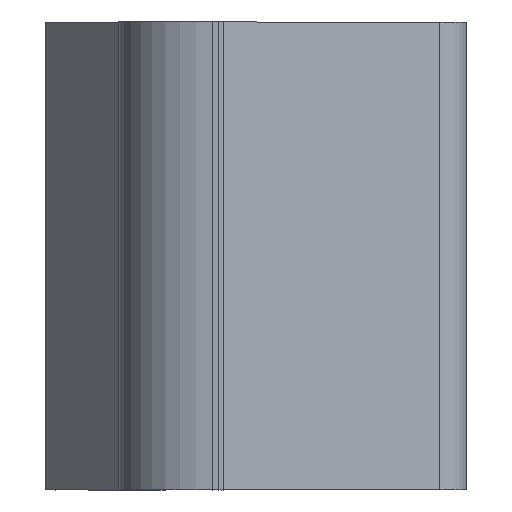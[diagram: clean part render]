
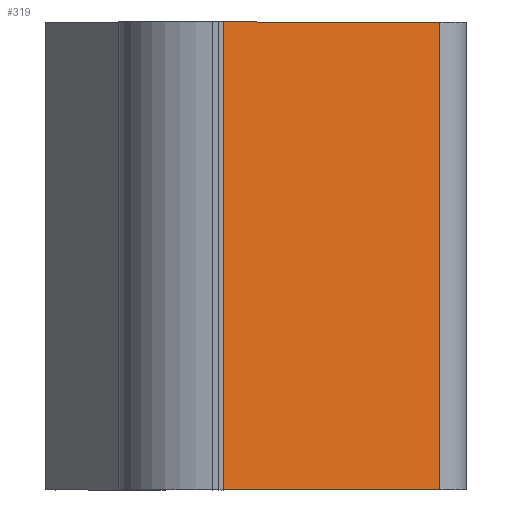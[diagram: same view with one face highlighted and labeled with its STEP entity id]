
A CAD part, left-side view. The second image highlights one B-rep face of the part: STEP entity #319.
In plain terms, the highlighted planar face has unit normal (-0.985, -0.174, 0).
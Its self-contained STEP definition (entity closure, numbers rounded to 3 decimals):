
#23 = VERTEX_POINT ( 'NONE', #437 ) ;
#49 = VERTEX_POINT ( 'NONE', #602 ) ;
#50 = ORIENTED_EDGE ( 'NONE', *, *, #69, .F. ) ;
#69 = EDGE_CURVE ( 'NONE', #49, #327, #773, .T. ) ;
#96 = ORIENTED_EDGE ( 'NONE', *, *, #941, .F. ) ;
#140 = ORIENTED_EDGE ( 'NONE', *, *, #258, .T. ) ;
#167 = VERTEX_POINT ( 'NONE', #731 ) ;
#219 = ORIENTED_EDGE ( 'NONE', *, *, #815, .F. ) ;
#258 = EDGE_CURVE ( 'NONE', #167, #23, #1047, .T. ) ;
#296 = EDGE_LOOP ( 'NONE', ( #219, #140, #96, #50 ) ) ;
#319 = ADVANCED_FACE ( 'NONE', ( #696 ), #697, .T. ) ;
#327 = VERTEX_POINT ( 'NONE', #793 ) ;
#437 = CARTESIAN_POINT ( 'NONE',  ( -2.886, -3.256, 0. ) ) ;
#506 = LINE ( 'NONE', #507, #508 ) ;
#507 = CARTESIAN_POINT ( 'NONE',  ( -1.706, -9.949, 14.5 ) ) ;
#508 = VECTOR ( 'NONE', #509, 1000. ) ;
#509 = DIRECTION ( 'NONE',  ( 0.174, -0.985, 0. ) ) ;
#583 = LINE ( 'NONE', #584, #587 ) ;
#584 = CARTESIAN_POINT ( 'NONE',  ( -2.894, -3.213, 0. ) ) ;
#587 = VECTOR ( 'NONE', #588, 1000. ) ;
#588 = DIRECTION ( 'NONE',  ( -0.174, 0.985, 0. ) ) ;
#602 = CARTESIAN_POINT ( 'NONE',  ( -1.706, -9.949, 14.5 ) ) ;
#696 = FACE_OUTER_BOUND ( 'NONE', #296, .T. ) ;
#697 = PLANE ( 'NONE',  #698 ) ;
#698 = AXIS2_PLACEMENT_3D ( 'NONE', #699, #700, #701 ) ;
#699 = CARTESIAN_POINT ( 'NONE',  ( -2.894, -3.213, 0. ) ) ;
#700 = DIRECTION ( 'NONE',  ( -0.985, -0.174, 0. ) ) ;
#701 = DIRECTION ( 'NONE',  ( 0.174, -0.985, 0. ) ) ;
#731 = CARTESIAN_POINT ( 'NONE',  ( -2.886, -3.256, 14.5 ) ) ;
#773 = LINE ( 'NONE', #774, #775 ) ;
#774 = CARTESIAN_POINT ( 'NONE',  ( -1.706, -9.949, 0. ) ) ;
#775 = VECTOR ( 'NONE', #776, 1000. ) ;
#776 = DIRECTION ( 'NONE',  ( 0., 0., -1. ) ) ;
#793 = CARTESIAN_POINT ( 'NONE',  ( -1.706, -9.949, 0. ) ) ;
#815 = EDGE_CURVE ( 'NONE', #167, #49, #506, .T. ) ;
#941 = EDGE_CURVE ( 'NONE', #327, #23, #583, .T. ) ;
#1047 = LINE ( 'NONE', #1048, #1049 ) ;
#1048 = CARTESIAN_POINT ( 'NONE',  ( -2.886, -3.256, 0. ) ) ;
#1049 = VECTOR ( 'NONE', #1050, 1000. ) ;
#1050 = DIRECTION ( 'NONE',  ( 0., 0., -1. ) ) ;
